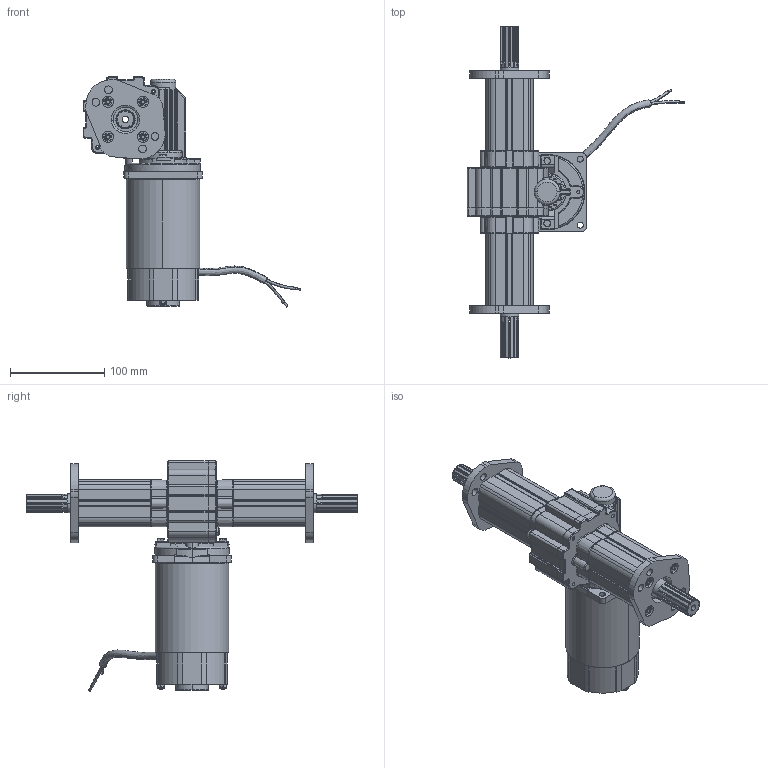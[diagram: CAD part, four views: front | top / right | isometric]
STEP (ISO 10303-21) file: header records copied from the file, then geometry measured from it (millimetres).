
FILE_DESCRIPTION (( 'STEP AP203' ), '1' );
FILE_NAME ('6910811X.STEP', '2016-04-13T10:35:23', ( '' ), ( '' ), 'SwSTEP 2.0', 'SolidWorks 2015', '' );
FILE_SCHEMA (( 'CONFIG_CONTROL_DESIGN' ));
Length unit declared in the file: millimetre
Products named in the file (1): 6910811X
Bounding box: 231.17 x 352.1 x 244.08 mm (x, y, z)
Surface area: 185755.9 mm2 (no closed solid volume)
Topology: 0 solids, 55 shells, 1096 faces, 3981 edges, 2837 vertices
Faces by surface type: cylinder 453, plane 331, torus 211, cone 75, bspline 14, sphere 12
Entity records: 46256 total; most frequent: CARTESIAN_POINT 13075, DIRECTION 7182, ORIENTED_EDGE 6158, EDGE_CURVE 3973, VERTEX_POINT 2835, AXIS2_PLACEMENT_3D 2774, CIRCLE 1691, VECTOR 1634
